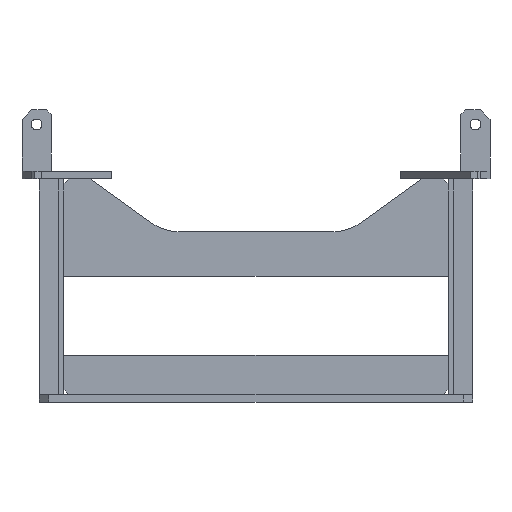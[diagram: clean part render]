
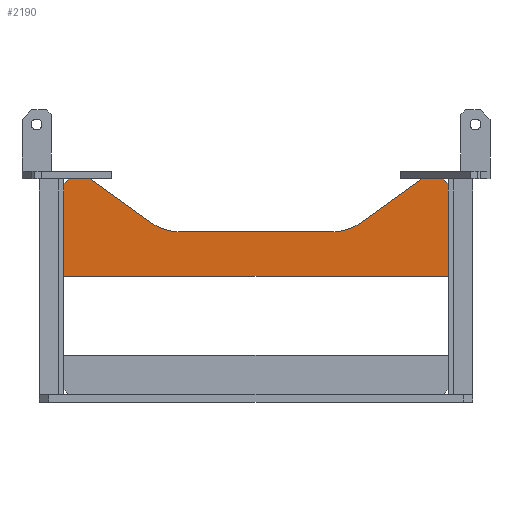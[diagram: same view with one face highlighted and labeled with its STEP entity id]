
A CAD part, front view. The second image highlights one B-rep face of the part: STEP entity #2190.
In plain terms, the highlighted planar face has unit normal (0, -1, 0).
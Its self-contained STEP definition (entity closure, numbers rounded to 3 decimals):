
#158=CIRCLE('',#2326,50.);
#160=CIRCLE('',#2330,50.);
#420=FACE_OUTER_BOUND('',#532,.T.);
#532=EDGE_LOOP('',(#1930,#1931,#1932,#1933,#1934,#1935,#1936,#1937,#1938,
#1939,#1940,#1941));
#746=LINE('',#3285,#996);
#752=LINE('',#3300,#1002);
#755=LINE('',#3308,#1005);
#758=LINE('',#3312,#1008);
#765=LINE('',#3328,#1015);
#768=LINE('',#3333,#1018);
#770=LINE('',#3336,#1020);
#771=LINE('',#3339,#1021);
#772=LINE('',#3341,#1022);
#773=LINE('',#3342,#1023);
#996=VECTOR('',#2747,10.);
#1002=VECTOR('',#2761,10.);
#1005=VECTOR('',#2766,10.);
#1008=VECTOR('',#2771,10.);
#1015=VECTOR('',#2782,10.);
#1018=VECTOR('',#2787,10.);
#1020=VECTOR('',#2791,10.);
#1021=VECTOR('',#2794,10.);
#1022=VECTOR('',#2795,10.);
#1023=VECTOR('',#2796,10.);
#1180=VERTEX_POINT('',#3275);
#1181=VERTEX_POINT('',#3276);
#1184=VERTEX_POINT('',#3284);
#1186=VERTEX_POINT('',#3290);
#1187=VERTEX_POINT('',#3291);
#1192=VERTEX_POINT('',#3305);
#1193=VERTEX_POINT('',#3307);
#1199=VERTEX_POINT('',#3326);
#1200=VERTEX_POINT('',#3327);
#1201=VERTEX_POINT('',#3332);
#1202=VERTEX_POINT('',#3338);
#1203=VERTEX_POINT('',#3340);
#1420=EDGE_CURVE('',#1180,#1181,#158,.T.);
#1424=EDGE_CURVE('',#1184,#1181,#746,.T.);
#1427=EDGE_CURVE('',#1186,#1187,#160,.T.);
#1432=EDGE_CURVE('',#1180,#1187,#752,.T.);
#1435=EDGE_CURVE('',#1192,#1193,#755,.T.);
#1438=EDGE_CURVE('',#1184,#1192,#758,.T.);
#1445=EDGE_CURVE('',#1199,#1200,#765,.T.);
#1448=EDGE_CURVE('',#1200,#1201,#768,.T.);
#1450=EDGE_CURVE('',#1186,#1201,#770,.T.);
#1451=EDGE_CURVE('',#1199,#1202,#771,.T.);
#1452=EDGE_CURVE('',#1203,#1202,#772,.T.);
#1453=EDGE_CURVE('',#1193,#1203,#773,.T.);
#1930=ORIENTED_EDGE('',*,*,#1435,.F.);
#1931=ORIENTED_EDGE('',*,*,#1438,.F.);
#1932=ORIENTED_EDGE('',*,*,#1424,.T.);
#1933=ORIENTED_EDGE('',*,*,#1420,.F.);
#1934=ORIENTED_EDGE('',*,*,#1432,.T.);
#1935=ORIENTED_EDGE('',*,*,#1427,.F.);
#1936=ORIENTED_EDGE('',*,*,#1450,.T.);
#1937=ORIENTED_EDGE('',*,*,#1448,.F.);
#1938=ORIENTED_EDGE('',*,*,#1445,.F.);
#1939=ORIENTED_EDGE('',*,*,#1451,.T.);
#1940=ORIENTED_EDGE('',*,*,#1452,.F.);
#1941=ORIENTED_EDGE('',*,*,#1453,.F.);
#2082=PLANE('',#2339);
#2190=ADVANCED_FACE('',(#420),#2082,.T.);
#2326=AXIS2_PLACEMENT_3D('',#3277,#2739,#2740);
#2330=AXIS2_PLACEMENT_3D('',#3292,#2752,#2753);
#2339=AXIS2_PLACEMENT_3D('',#3337,#2792,#2793);
#2739=DIRECTION('center_axis',(0.,-1.,0.));
#2740=DIRECTION('ref_axis',(0.307,0.,-0.952));
#2747=DIRECTION('',(-0.812,0.,-0.584));
#2752=DIRECTION('center_axis',(0.,-1.,0.));
#2753=DIRECTION('ref_axis',(-0.307,0.,-0.952));
#2761=DIRECTION('',(-1.,0.,0.));
#2766=DIRECTION('',(0.707,0.,-0.707));
#2771=DIRECTION('',(1.,0.,0.));
#2782=DIRECTION('',(0.707,0.,0.707));
#2787=DIRECTION('',(1.,0.,0.));
#2791=DIRECTION('',(-0.812,0.,0.584));
#2792=DIRECTION('center_axis',(0.,-1.,0.));
#2793=DIRECTION('ref_axis',(-1.,0.,0.));
#2794=DIRECTION('',(0.,0.,-1.));
#2795=DIRECTION('',(-1.,0.,0.));
#2796=DIRECTION('',(0.,0.,-1.));
#3275=CARTESIAN_POINT('',(78.873,-3.,175.));
#3276=CARTESIAN_POINT('',(108.088,-3.,184.423));
#3277=CARTESIAN_POINT('Origin',(78.873,-3.,225.));
#3284=CARTESIAN_POINT('',(170.,-3.,229.));
#3285=CARTESIAN_POINT('',(178.891,-3.,235.401));
#3290=CARTESIAN_POINT('',(-108.088,-3.,184.423));
#3291=CARTESIAN_POINT('',(-78.873,-3.,175.));
#3292=CARTESIAN_POINT('Origin',(-78.873,-3.,225.));
#3300=CARTESIAN_POINT('',(146.,-3.,175.));
#3305=CARTESIAN_POINT('',(192.,-3.,229.));
#3307=CARTESIAN_POINT('',(197.,-3.,224.));
#3308=CARTESIAN_POINT('',(194.5,-3.,226.5));
#3312=CARTESIAN_POINT('',(-197.,-3.,229.));
#3326=CARTESIAN_POINT('',(-197.,-3.,224.));
#3327=CARTESIAN_POINT('',(-192.,-3.,229.));
#3328=CARTESIAN_POINT('',(-96.,-3.,325.));
#3332=CARTESIAN_POINT('',(-170.,-3.,229.));
#3333=CARTESIAN_POINT('',(-197.,-3.,229.));
#3336=CARTESIAN_POINT('',(-11.649,-3.,114.987));
#3337=CARTESIAN_POINT('Origin',(197.,-3.,229.));
#3338=CARTESIAN_POINT('',(-197.,-3.,129.));
#3339=CARTESIAN_POINT('',(-197.,-3.,229.));
#3340=CARTESIAN_POINT('',(197.,-3.,129.));
#3341=CARTESIAN_POINT('',(-197.,-3.,129.));
#3342=CARTESIAN_POINT('',(197.,-3.,229.));
